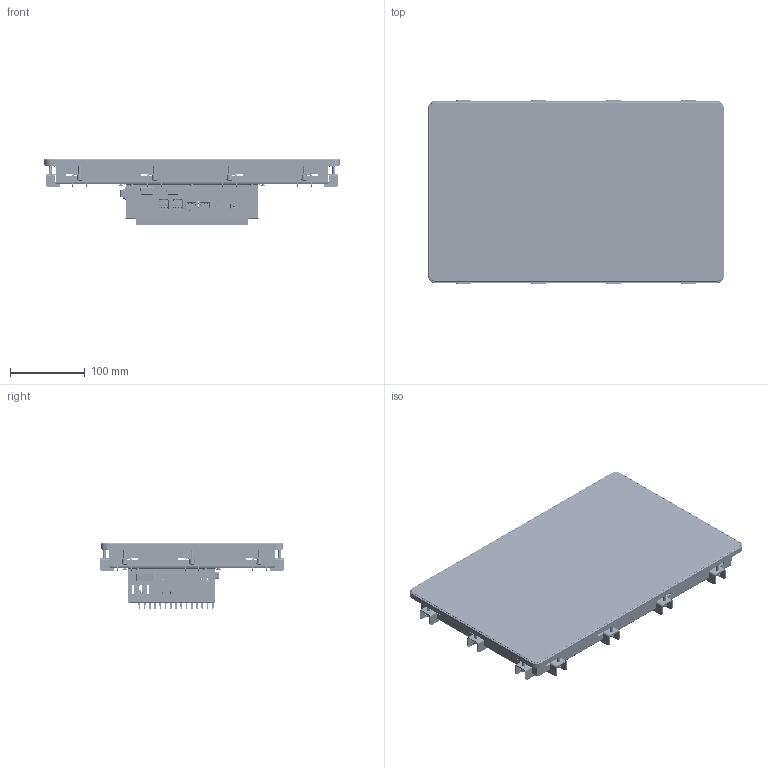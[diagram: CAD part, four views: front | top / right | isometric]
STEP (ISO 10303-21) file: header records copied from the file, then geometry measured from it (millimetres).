
FILE_DESCRIPTION (( 'STEP AP203' ), '1' );
FILE_NAME ('S156S-N2.STEP', '2026-08-03T09:53:13', ( '' ), ( '' ), 'SwSTEP 2.0', 'SolidWorks 2025', '' );
FILE_SCHEMA (( 'CONFIG_CONTROL_DESIGN' ));
Length unit declared in the file: millimetre
Products named in the file (25): TF-F-M3 Inpersmoer; G156HCE-L01; DIN EN ISO 7045 - M3 x 4 - Z - 4N_DIN EN ISO 7045 - M3 x 4 - Z - 4N; IOPC-10 Power button panelmount connector; MPS-156-10 Mounting plate; MBR-10 Mounting bracket; BCS-ALN35-10 Backcover; ALN-With_heatsink; LE-374_RS232_RS 446-462; DIN EN ISO 7046-1 - M3 x 6 - Z - 6N_DIN EN ISO 7046-1 - M3 x 6 - Z - 6N; Pakking 8x2 celrubber^S156S-00 assembly; Samsung 2,5'''' 870EVO; S156S-10 Bezel; S156S-N2; GPC-156G-PD-G03B.; SO-3,5M3-6-ZI Inpersafstandsteun; PPCS-ALN35-00 Small backcover assembly; Rocker switch; SSD-04 Bracket ALN35; SO4-M4-6 Inpersafstandsteun; ALN35-11 Montagebeugel; DIN EN ISO 7045 - M4 x 20 - Z - 20N_DIN EN ISO 7045 - M4 x 20 - Z - 20N
Assembly tree (77 placements, depth 4):
  S156S-N2
    S156S-10 Bezel
    MPS-156-10 Mounting plate
      MPS-156-10 Mounting plate
      TF-F-M3 Inpersmoer  x10
    GPC-156G-PD-G03B.
    G156HCE-L01
    PPCS-ALN35-00 Small backcover assembly
      BCS-ALN35-10 Backcover
        BCS-ALN35-10 Backcover
        SO-3,5M3-6-ZI Inpersafstandsteun  x4
      ALN-With_heatsink
      ALN35-11 Montagebeugel  x2
      Rocker switch
      IOPC-10 Power button panelmount connector
      LE-374_RS232_RS 446-462  x2
      Samsung 2,5'''' 870EVO
      SSD-04 Bracket ALN35
    Pakking 8x2 celrubber^S156S-00 assembly
    MBR-10 Mounting bracket  x14
      MBR-10 Mounting bracket
      SO4-M4-6 Inpersafstandsteun
      DIN EN ISO 7045 - M4 x 20 - Z - 20N_DIN EN ISO 7045 - M4 x 20 - Z - 20N
    DIN EN ISO 7045 - M3 x 4 - Z - 4N_DIN EN ISO 7045 - M3 x 4 - Z - 4N  x10
    DIN EN ISO 7046-1 - M3 x 6 - Z - 6N_DIN EN ISO 7046-1 - M3 x 6 - Z - 6N  x18
Bounding box: 395 x 245.9 x 89.35 mm (x, y, z)
Volume: 1253663.5 mm3; surface area: 927157.4 mm2
Topology: 100 solids, 278 shells, 6149 faces, 24198 edges, 18120 vertices
Faces by surface type: plane 4124, cylinder 1379, cone 376, torus 125, bspline 117, sphere 28
Full cylindrical faces by diameter (mm): 0.92 x18, 1.95 x2, 2.5 x30, 3 x40, 3.2 x18, 3.5 x9, 4 x28, 4.3 x10, 4.5 x15, 4.75 x4, 5.4 x4, 5.49 x4, 5.5 x18, 5.6 x10, 6.5 x2, 7.1 x14, 7.22 x14, 8 x14
Entity records: 202551 total; most frequent: CARTESIAN_POINT 60134, ORIENTED_EDGE 26440, DIRECTION 24558, EDGE_CURVE 18761, VERTEX_POINT 14867, VECTOR 10528, LINE 10528, AXIS2_PLACEMENT_3D 7015
